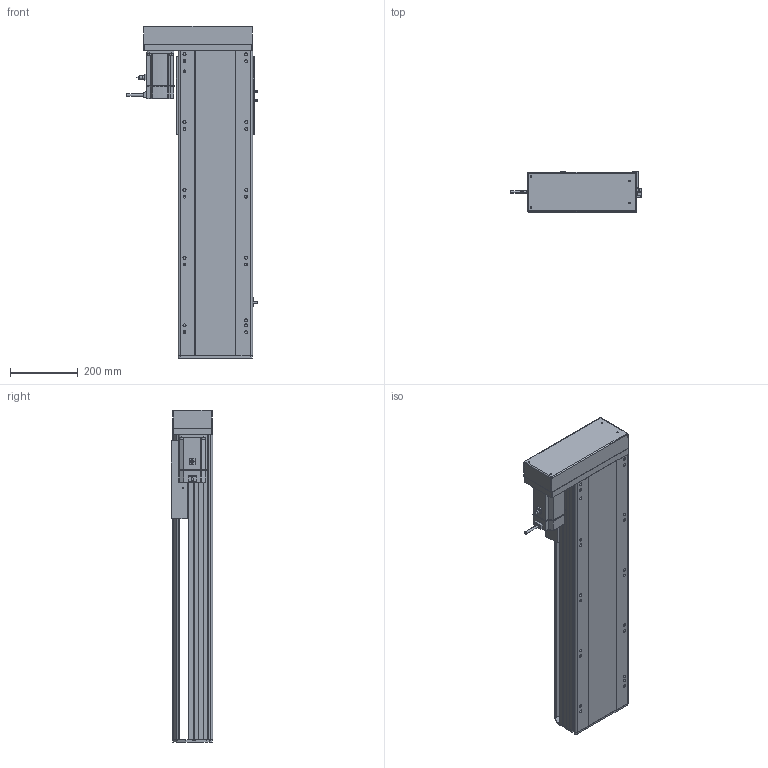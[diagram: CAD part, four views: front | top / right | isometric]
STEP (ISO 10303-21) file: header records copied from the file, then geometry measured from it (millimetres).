
FILE_DESCRIPTION (( 'STEP AP214' ), '1' );
FILE_NAME ('RTH22-XX-600-R-M75-C4.STEP', '2025-10-25T03:10:05', ( 'Microsoft' ), ( 'Microsoft' ), 'SwSTEP 2.0', 'SolidWorks 2018', '' );
FILE_SCHEMA (( 'AUTOMOTIVE_DESIGN' ));
Length unit declared in the file: millimetre
Products named in the file (10): N_RTH22-R-008-P75萇儂啣^RTH22-XX-XX-R-M75-C4; N_RTH22-L-018裔赽^RTH22-XX-XX-R-M75-C4; N_RTH22-GY-001耜裔^RTH22-XX-XX-R-M75-C4; N_RTH22-L-007奻裔^RTH22-XX-XX-R-M75-C4; N_750W萇儂^RTH22-XX-XX-R-M75-C4; N_RTH22-L-011菁釱^RTH22-XX-XX-R-M75-C4; N_RTH22-L-004-SFS25賑釱^RTH22-XX-XX-R-M75-C4; N_OMRON EE-SX672 传感器^RTH22-XX-XX-R-M75-C4; N_RTH22-GY-013外置感应片^RTH22-XX-XX-R-M75-C4; RTH22-XX-600-R-M75-C4
Assembly tree (11 placements, depth 2):
  RTH22-XX-600-R-M75-C4
    N_RTH22-L-011菁釱^RTH22-XX-XX-R-M75-C4
    N_RTH22-GY-001耜裔^RTH22-XX-XX-R-M75-C4
    N_750W萇儂^RTH22-XX-XX-R-M75-C4
    N_RTH22-R-008-P75萇儂啣^RTH22-XX-XX-R-M75-C4
    N_RTH22-L-007奻裔^RTH22-XX-XX-R-M75-C4
    N_OMRON EE-SX672 传感器^RTH22-XX-XX-R-M75-C4  x3
    N_RTH22-GY-013外置感应片^RTH22-XX-XX-R-M75-C4
    N_RTH22-L-004-SFS25賑釱^RTH22-XX-XX-R-M75-C4
    N_RTH22-L-018裔赽^RTH22-XX-XX-R-M75-C4
Bounding box: 384.7 x 122 x 979.7 mm (x, y, z)
Volume: 14256329 mm3; surface area: 1651285.4 mm2
Topology: 11 solids, 11 shells, 1556 faces, 4247 edges, 2743 vertices
Faces by surface type: plane 789, cylinder 438, bspline 279, cone 50
Entity records: 38651 total; most frequent: CARTESIAN_POINT 11906, ORIENTED_EDGE 5486, DIRECTION 5129, EDGE_CURVE 2743, VERTEX_POINT 1779, VECTOR 1717, LINE 1717, AXIS2_PLACEMENT_3D 1706
